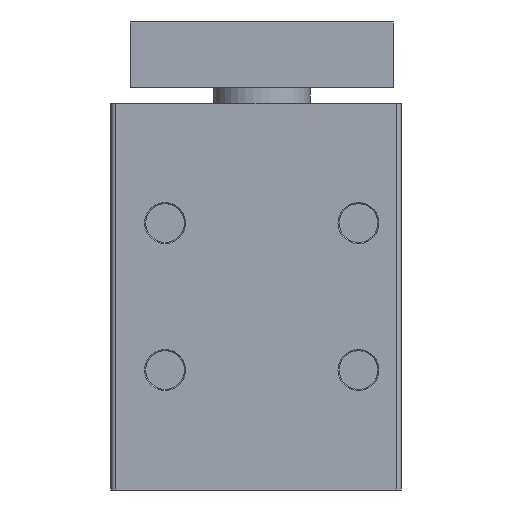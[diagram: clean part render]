
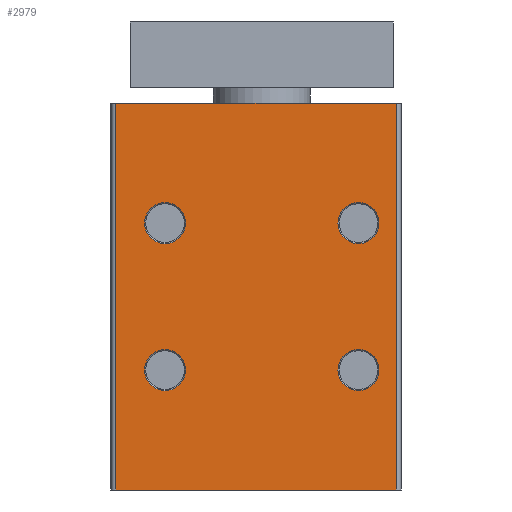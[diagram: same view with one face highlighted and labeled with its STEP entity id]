
A CAD part, front view. The second image highlights one B-rep face of the part: STEP entity #2979.
In plain terms, the highlighted planar face has unit normal (0, -1, 0).
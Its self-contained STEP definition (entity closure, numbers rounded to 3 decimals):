
#1375=CARTESIAN_POINT('',(34.8,-80.0,-104.0));
#1376=VERTEX_POINT('',#1375);
#1384=CARTESIAN_POINT('',(-37.8,-80.0,-104.0));
#1385=VERTEX_POINT('',#1384);
#1386=CARTESIAN_POINT('',(-37.8,-80.0,-104.0));
#1387=DIRECTION('',(1.0,0.0,0.0));
#1388=VECTOR('',#1387,72.6);
#1389=LINE('',#1386,#1388);
#1390=EDGE_CURVE('',#1385,#1376,#1389,.T.);
#1934=CARTESIAN_POINT('',(-37.8,-80.0,-4.));
#1935=VERTEX_POINT('',#1934);
#1943=CARTESIAN_POINT('',(34.8,-80.0,-4.));
#1944=VERTEX_POINT('',#1943);
#1945=CARTESIAN_POINT('',(34.8,-80.0,-4.));
#1946=DIRECTION('',(-1.0,0.0,0.0));
#1947=VECTOR('',#1946,72.6);
#1948=LINE('',#1945,#1947);
#1949=EDGE_CURVE('',#1944,#1935,#1948,.T.);
#2910=CARTESIAN_POINT('',(-19.7,-80.0,-35.0));
#2911=VERTEX_POINT('',#2910);
#2912=CARTESIAN_POINT('',(-25.,-80.0,-35.0));
#2913=DIRECTION('',(0.0,-1.0,0.0));
#2914=DIRECTION('',(-1.0,0.0,0.0));
#2915=AXIS2_PLACEMENT_3D('',#2912,#2913,#2914);
#2916=CIRCLE('',#2915,5.3);
#2917=EDGE_CURVE('',#2911,#2911,#2916,.T.);
#2922=CARTESIAN_POINT('',(-37.8,-80.0,-4.));
#2923=DIRECTION('',(0.0,-1.0,0.0));
#2924=DIRECTION('',(0.0,0.0,-1.0));
#2925=AXIS2_PLACEMENT_3D('',#2922,#2923,#2924);
#2926=PLANE('',#2925);
#2927=ORIENTED_EDGE('',*,*,#1390,.T.);
#2928=CARTESIAN_POINT('',(34.8,-80.0,-4.));
#2929=DIRECTION('',(0.0,0.0,-1.0));
#2930=VECTOR('',#2929,100.0);
#2931=LINE('',#2928,#2930);
#2932=EDGE_CURVE('',#1944,#1376,#2931,.T.);
#2933=ORIENTED_EDGE('',*,*,#2932,.F.);
#2934=ORIENTED_EDGE('',*,*,#1949,.T.);
#2935=CARTESIAN_POINT('',(-37.8,-80.0,-4.));
#2936=DIRECTION('',(0.0,0.0,-1.0));
#2937=VECTOR('',#2936,100.0);
#2938=LINE('',#2935,#2937);
#2939=EDGE_CURVE('',#1935,#1385,#2938,.T.);
#2940=ORIENTED_EDGE('',*,*,#2939,.T.);
#2941=EDGE_LOOP('',(#2927,#2933,#2934,#2940));
#2942=FACE_OUTER_BOUND('',#2941,.T.);
#2943=CARTESIAN_POINT('',(-19.7,-80.0,-73.0));
#2944=VERTEX_POINT('',#2943);
#2945=CARTESIAN_POINT('',(-25.,-80.0,-73.0));
#2946=DIRECTION('',(0.0,-1.0,0.0));
#2947=DIRECTION('',(-1.0,0.0,0.0));
#2948=AXIS2_PLACEMENT_3D('',#2945,#2946,#2947);
#2949=CIRCLE('',#2948,5.3);
#2950=EDGE_CURVE('',#2944,#2944,#2949,.T.);
#2951=ORIENTED_EDGE('',*,*,#2950,.F.);
#2952=EDGE_LOOP('',(#2951));
#2953=FACE_BOUND('',#2952,.T.);
#2954=CARTESIAN_POINT('',(30.3,-80.0,-35.0));
#2955=VERTEX_POINT('',#2954);
#2956=CARTESIAN_POINT('',(25.,-80.0,-35.0));
#2957=DIRECTION('',(0.0,-1.0,0.0));
#2958=DIRECTION('',(-1.0,0.0,0.0));
#2959=AXIS2_PLACEMENT_3D('',#2956,#2957,#2958);
#2960=CIRCLE('',#2959,5.3);
#2961=EDGE_CURVE('',#2955,#2955,#2960,.T.);
#2962=ORIENTED_EDGE('',*,*,#2961,.F.);
#2963=EDGE_LOOP('',(#2962));
#2964=FACE_BOUND('',#2963,.T.);
#2965=CARTESIAN_POINT('',(30.3,-80.0,-73.0));
#2966=VERTEX_POINT('',#2965);
#2967=CARTESIAN_POINT('',(25.,-80.0,-73.0));
#2968=DIRECTION('',(0.0,-1.0,0.0));
#2969=DIRECTION('',(-1.0,0.0,0.0));
#2970=AXIS2_PLACEMENT_3D('',#2967,#2968,#2969);
#2971=CIRCLE('',#2970,5.3);
#2972=EDGE_CURVE('',#2966,#2966,#2971,.T.);
#2973=ORIENTED_EDGE('',*,*,#2972,.F.);
#2974=EDGE_LOOP('',(#2973));
#2975=FACE_BOUND('',#2974,.T.);
#2976=ORIENTED_EDGE('',*,*,#2917,.F.);
#2977=EDGE_LOOP('',(#2976));
#2978=FACE_BOUND('',#2977,.T.);
#2979=ADVANCED_FACE('',(#2942,#2953,#2964,#2975,#2978),#2926,.T.);
